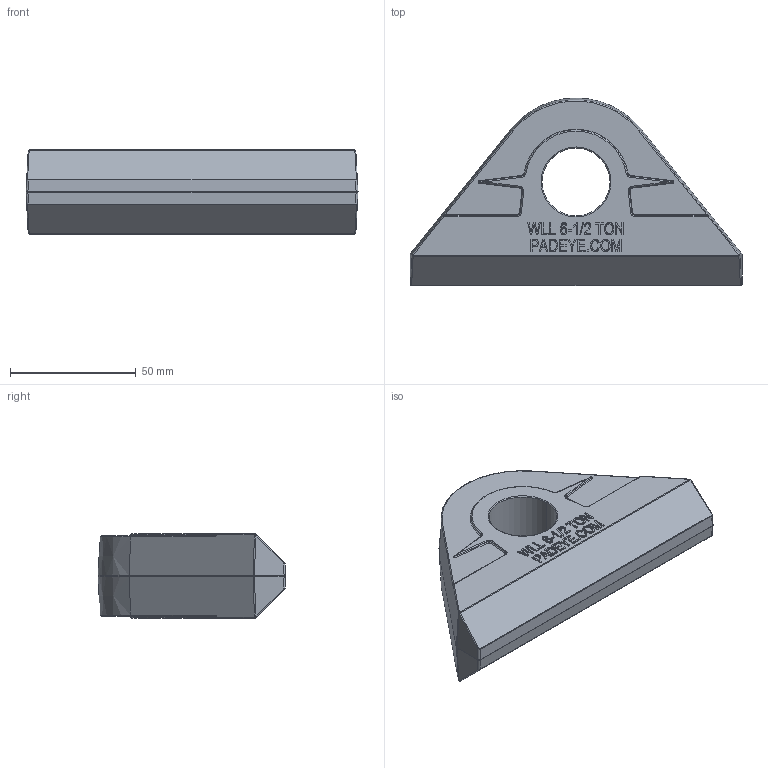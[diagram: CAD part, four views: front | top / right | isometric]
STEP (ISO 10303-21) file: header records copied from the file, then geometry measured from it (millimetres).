
FILE_DESCRIPTION (( 'STEP AP214' ), '1' );
FILE_NAME ('CSF.STEP', '2024-04-23T14:36:25', ( '' ), ( '' ), 'SwSTEP 2.0', 'SolidWorks 2018', '' );
FILE_SCHEMA (( 'AUTOMOTIVE_DESIGN' ));
Length unit declared in the file: inch
Products named in the file (1): CSF
Bounding box: 131.76 x 74.61 x 34.1 mm (x, y, z)
Volume: 178591 mm3; surface area: 24394.9 mm2
Topology: 1 solids, 1 shells, 1187 faces, 3142 edges, 2047 vertices
Faces by surface type: plane 762, bspline 271, cylinder 98, torus 46, sphere 8, cone 2
Entity records: 48482 total; most frequent: CARTESIAN_POINT 20928, ORIENTED_EDGE 6260, DIRECTION 4580, EDGE_CURVE 3130, LINE 2326, VECTOR 2326, VERTEX_POINT 2047, EDGE_LOOP 1291
